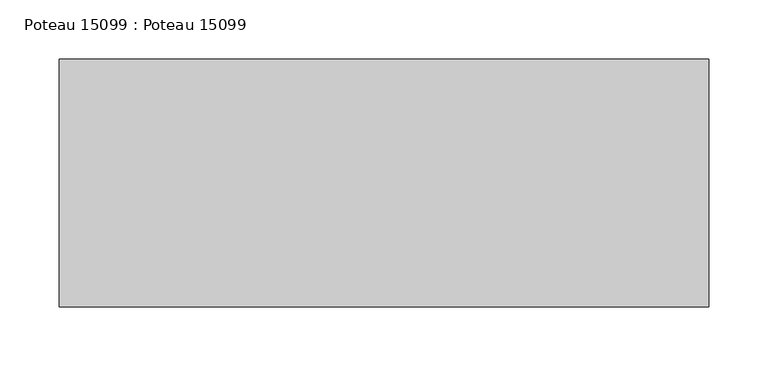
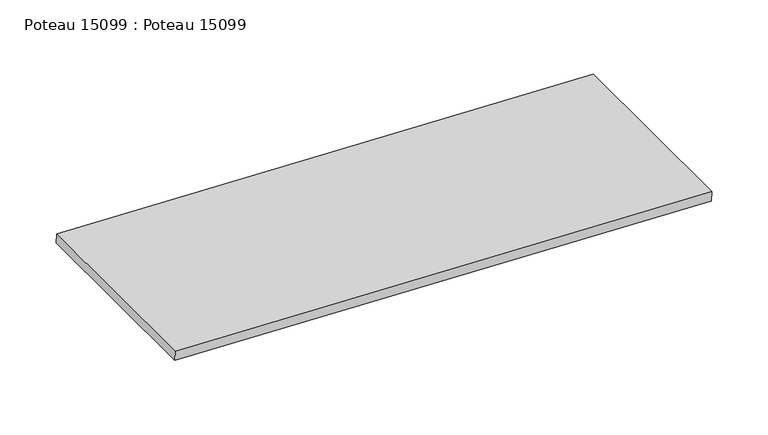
"""IFC4 building model written with IfcOpenShell, lengths in millimetres: beam geometry, Poteau 15099 : Poteau 15099."""

from ifc_helpers import new_model, si_unit, frame, origin, place, context, project, spatial, polyline, outline, extrude, source, transform, mapped, element, save


def poteau_15099_poteau_15099_7426c992(model_context):
    return source(origin(), model_context, "Body", "SweptSolid", [
        extrude(outline(polyline([(0.0, -549.9778081), (0.0, 0.0), (210.0, 0.0), (210.0, -549.9778081), (0.0, -549.9778081)])), frame((369.6508062, -15.0, 8010.7560987), z_axis=(0.03491638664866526, 0.0, 0.9993902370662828), x_axis=(0.0, -1.0, 0.0)), (0.0, 0.0, 1.0), 10.0),
    ])


if __name__ == "__main__":
    model = new_model("IFC4")
    model_context = context("Model", 3, world=origin())
    ifc_project = project(units=[si_unit("LENGTHUNIT", "METRE", prefix="MILLI")], contexts=[model_context])
    site = spatial("IfcSite", under=ifc_project)
    building = spatial("IfcBuilding", under=site)
    placement = place(None, origin())
    poteau_15099_poteau_15099_shape = poteau_15099_poteau_15099_7426c992(model_context)
    element("IfcBeam", 1, ObjectType="Poteau 15099 : Poteau 15099", at=placement, inside=building, context=model_context, shape_type="MappedRepresentation", body=[
        mapped(poteau_15099_poteau_15099_shape, transform((0.0, 0.0, 0.0), x_axis=(1.0, 0.0, 0.0), y_axis=(0.0, 1.0, 0.0), z_axis=(0.0, 0.0, 1.0))),
    ])
    save(model, "model.ifc")
